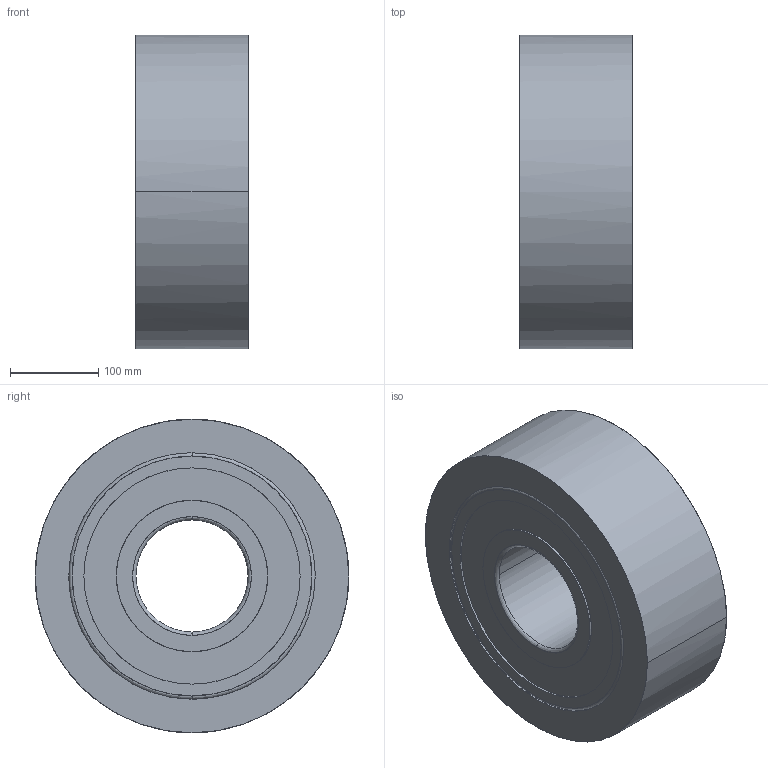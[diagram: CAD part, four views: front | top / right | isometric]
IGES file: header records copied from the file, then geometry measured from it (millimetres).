
Global section: native system: Kubotek KeyCreator; preprocessor: KCM Version 1.1.1442.0; author: KeyCreator User; organization: Self; date: 20170714.085215; units: inch
Bounding box: 127 x 355.6 x 355.6 mm (x, y, z)
Surface area: 381805.6 mm2 (no closed solid volume)
Topology: 0 solids, 0 shells, 32 faces, 208 edges, 208 vertices
Faces by surface type: bspline 32
